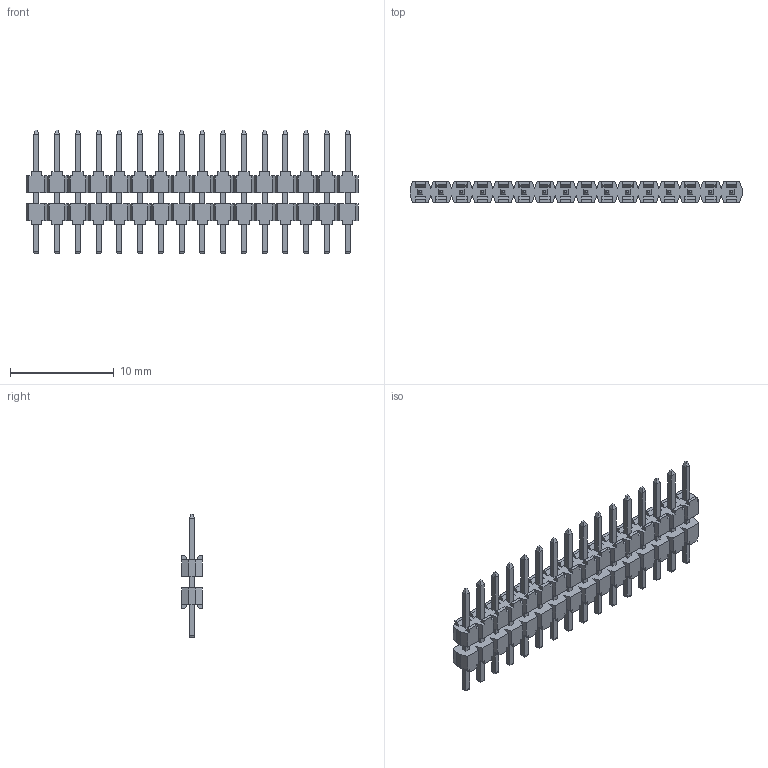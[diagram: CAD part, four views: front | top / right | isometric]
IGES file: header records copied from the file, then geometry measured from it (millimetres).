
Global section: file name: N:\GOLF_VI_2mm_UGII\9514XX_901XX06_AR\951416-9011106-AR.igs; native system: NX V3.0; preprocessor: UGS NX IGES V4.0; date: 20070314.113525; units: millimetre
Bounding box: 32 x 2 x 11.9 mm (x, y, z)
Surface area: 864.4 mm2 (no closed solid volume)
Topology: 0 solids, 0 shells, 808 faces, 4377 edges, 4377 vertices
Faces by surface type: bspline 808
